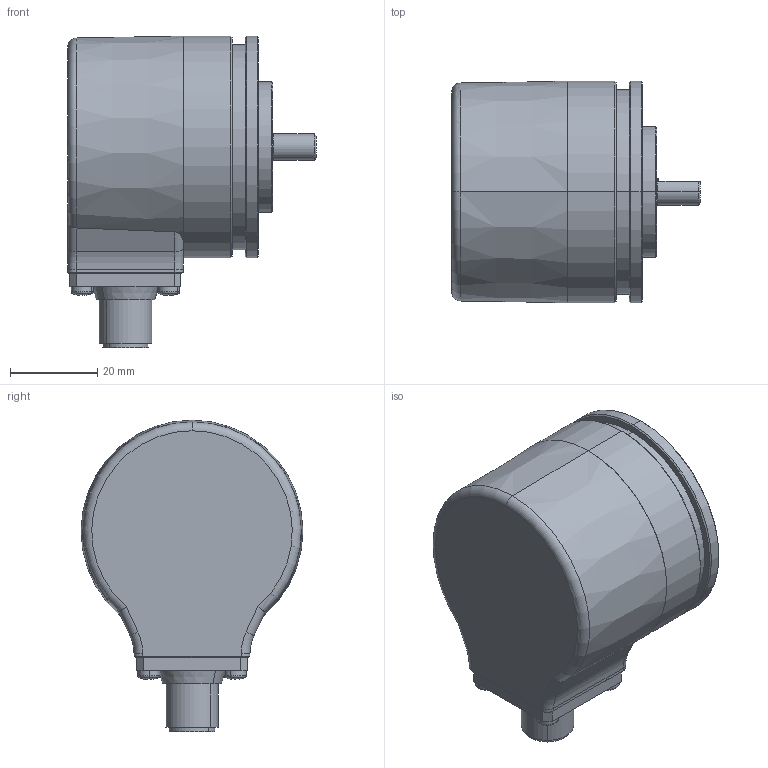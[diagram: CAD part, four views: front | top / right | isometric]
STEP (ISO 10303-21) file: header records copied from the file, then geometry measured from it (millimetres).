
FILE_DESCRIPTION (( 'STEP AP214' ), '1' );
FILE_NAME ('5000.61X4XXXX.STEP', '2008-11-28T10:35:16', ( 'admin' ), ( 'Fritz Kübler GmbH' ), 'SwSTEP 2.0', 'SolidWorks 2008', '' );
FILE_SCHEMA (( 'AUTOMOTIVE_DESIGN' ));
Length unit declared in the file: millimetre
Products named in the file (1): 5000.61X4XXXX
Bounding box: 57 x 50.8 x 71.4 mm (x, y, z)
Volume: 51696.5 mm3; surface area: 32788.5 mm2
Topology: 9 solids, 10 shells, 519 faces, 1251 edges, 754 vertices
Faces by surface type: cylinder 156, plane 153, cone 93, torus 59, sphere 48, bspline 10
Entity records: 21250 total; most frequent: CARTESIAN_POINT 3605, DIRECTION 2683, ORIENTED_EDGE 2306, EDGE_CURVE 1153, AXIS2_PLACEMENT_3D 1116, VERTEX_POINT 708, EDGE_LOOP 609, CIRCLE 606
